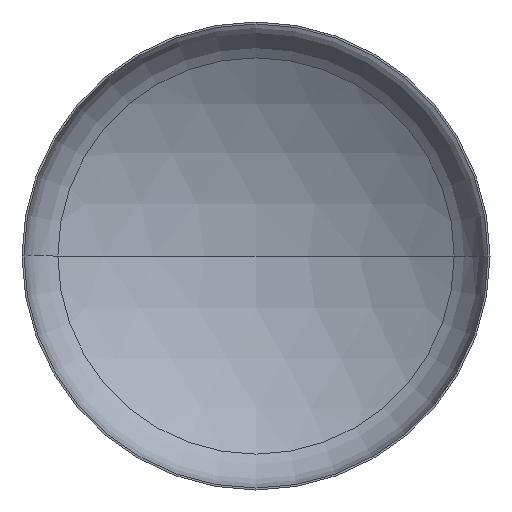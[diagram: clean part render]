
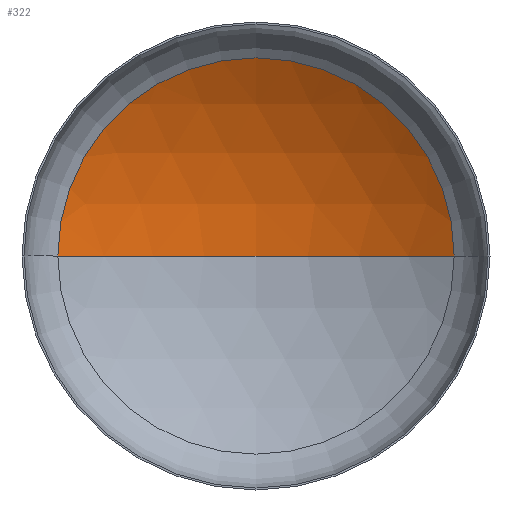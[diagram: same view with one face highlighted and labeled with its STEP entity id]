
A CAD part, front view. The second image highlights one B-rep face of the part: STEP entity #322.
In plain terms, the highlighted spherical face has radius 5200 mm.
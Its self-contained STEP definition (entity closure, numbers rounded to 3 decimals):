
#4 = CARTESIAN_POINT ( 'NONE',  ( 0., -3478.463, 0. ) ) ;
#22 = AXIS2_PLACEMENT_3D ( 'NONE', #70, #364, #181 ) ;
#26 = ORIENTED_EDGE ( 'NONE', *, *, #202, .F. ) ;
#27 = DIRECTION ( 'NONE',  ( 0., 0., -1. ) ) ;
#30 = CIRCLE ( 'NONE', #88, 2752.286 ) ;
#34 = CARTESIAN_POINT ( 'NONE',  ( 0., -3478.463, 0. ) ) ;
#59 = VERTEX_POINT ( 'NONE', #246 ) ;
#67 = CARTESIAN_POINT ( 'NONE',  ( -2752.286, 933.444, 0. ) ) ;
#70 = CARTESIAN_POINT ( 'NONE',  ( 0., -3478.463, 0. ) ) ;
#77 = AXIS2_PLACEMENT_3D ( 'NONE', #34, #272, #110 ) ;
#85 = AXIS2_PLACEMENT_3D ( 'NONE', #4, #27, #305 ) ;
#88 = AXIS2_PLACEMENT_3D ( 'NONE', #111, #121, #145 ) ;
#110 = DIRECTION ( 'NONE',  ( 1., 0., 0. ) ) ;
#111 = CARTESIAN_POINT ( 'NONE',  ( 0., 933.444, 0. ) ) ;
#121 = DIRECTION ( 'NONE',  ( 0., -1., 0. ) ) ;
#145 = DIRECTION ( 'NONE',  ( 1., 0., 0. ) ) ;
#181 = DIRECTION ( 'NONE',  ( -1., 0., 0. ) ) ;
#195 = EDGE_CURVE ( 'NONE', #338, #317, #30, .T. ) ;
#200 = EDGE_CURVE ( 'NONE', #59, #338, #206, .T. ) ;
#202 = EDGE_CURVE ( 'NONE', #59, #317, #369, .T. ) ;
#206 = CIRCLE ( 'NONE', #85, 5200. ) ;
#216 = ORIENTED_EDGE ( 'NONE', *, *, #195, .T. ) ;
#245 = ORIENTED_EDGE ( 'NONE', *, *, #200, .T. ) ;
#246 = CARTESIAN_POINT ( 'NONE',  ( 0., 1721.537, 0. ) ) ;
#261 = FACE_OUTER_BOUND ( 'NONE', #360, .T. ) ;
#272 = DIRECTION ( 'NONE',  ( 0., 0., 1. ) ) ;
#305 = DIRECTION ( 'NONE',  ( -1., 0., 0. ) ) ;
#317 = VERTEX_POINT ( 'NONE', #67 ) ;
#322 = ADVANCED_FACE ( 'NONE', ( #261 ), #405, .F. ) ;
#335 = CARTESIAN_POINT ( 'NONE',  ( 2752.286, 933.444, 0. ) ) ;
#338 = VERTEX_POINT ( 'NONE', #335 ) ;
#360 = EDGE_LOOP ( 'NONE', ( #26, #245, #216 ) ) ;
#364 = DIRECTION ( 'NONE',  ( 0., 0., -1. ) ) ;
#369 = CIRCLE ( 'NONE', #77, 5200. ) ;
#405 = SPHERICAL_SURFACE ( 'NONE', #22, 5200. ) ;
